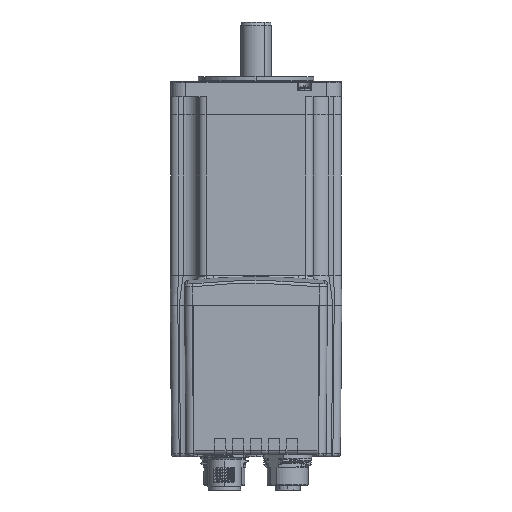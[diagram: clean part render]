
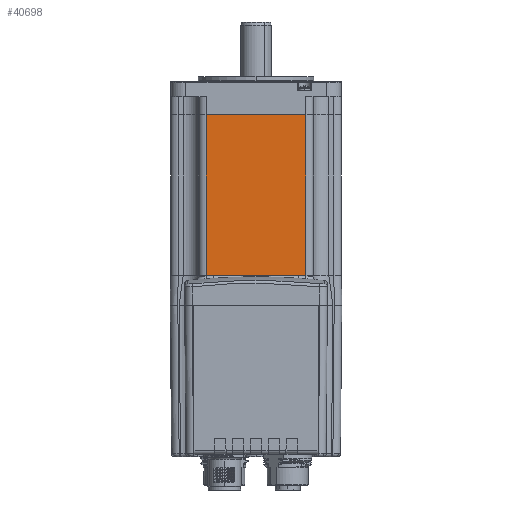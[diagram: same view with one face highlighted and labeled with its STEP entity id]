
A CAD part, left-side view. The second image highlights one B-rep face of the part: STEP entity #40698.
In plain terms, the highlighted planar face has unit normal (-1, 0, 0).
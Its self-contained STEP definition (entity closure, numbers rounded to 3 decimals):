
#144 = VECTOR ( 'NONE', #19174, 1000. ) ;
#480 = DIRECTION ( 'NONE',  ( 1., 0., 0. ) ) ;
#848 = LINE ( 'NONE', #13212, #144 ) ;
#7498 = DIRECTION ( 'NONE',  ( 0., -1., 0. ) ) ;
#7678 = CARTESIAN_POINT ( 'NONE',  ( -0.2, -44.5, 0. ) ) ;
#10474 = EDGE_CURVE ( 'NONE', #75644, #70696, #35447, .T. ) ;
#11553 = ORIENTED_EDGE ( 'NONE', *, *, #57151, .F. ) ;
#13212 = CARTESIAN_POINT ( 'NONE',  ( -0.2, -11.5, 32. ) ) ;
#13247 = VECTOR ( 'NONE', #44961, 1000. ) ;
#14000 = LINE ( 'NONE', #50658, #13247 ) ;
#15417 = VECTOR ( 'NONE', #34447, 1000. ) ;
#15585 = LINE ( 'NONE', #28499, #15417 ) ;
#17189 = ORIENTED_EDGE ( 'NONE', *, *, #67729, .T. ) ;
#19059 = CARTESIAN_POINT ( 'NONE',  ( -0.2, -44.5, 32. ) ) ;
#19174 = DIRECTION ( 'NONE',  ( 0., 0., -1. ) ) ;
#24967 = PLANE ( 'NONE',  #57364 ) ;
#28499 = CARTESIAN_POINT ( 'NONE',  ( -0.2, -44.5, 53. ) ) ;
#29696 = CARTESIAN_POINT ( 'NONE',  ( -0.2, -44.5, 53. ) ) ;
#30941 = DIRECTION ( 'NONE',  ( 0., 0., -1. ) ) ;
#34447 = DIRECTION ( 'NONE',  ( 0., 1., 0. ) ) ;
#35447 = LINE ( 'NONE', #7678, #35521 ) ;
#35521 = VECTOR ( 'NONE', #7498, 1000. ) ;
#37385 = EDGE_CURVE ( 'NONE', #76305, #73601, #15585, .T. ) ;
#40698 = ADVANCED_FACE ( 'NONE', ( #68447 ), #24967, .F. ) ;
#43662 = ORIENTED_EDGE ( 'NONE', *, *, #37385, .T. ) ;
#44961 = DIRECTION ( 'NONE',  ( 0., 0., -1. ) ) ;
#47264 = EDGE_LOOP ( 'NONE', ( #64225, #11553, #43662, #17189 ) ) ;
#50658 = CARTESIAN_POINT ( 'NONE',  ( -0.2, -44.5, 32. ) ) ;
#52895 = CARTESIAN_POINT ( 'NONE',  ( -0.2, -11.5, 0. ) ) ;
#57151 = EDGE_CURVE ( 'NONE', #76305, #70696, #14000, .T. ) ;
#57364 = AXIS2_PLACEMENT_3D ( 'NONE', #19059, #480, #30941 ) ;
#64225 = ORIENTED_EDGE ( 'NONE', *, *, #10474, .T. ) ;
#65946 = CARTESIAN_POINT ( 'NONE',  ( -0.2, -11.5, 53. ) ) ;
#67729 = EDGE_CURVE ( 'NONE', #73601, #75644, #848, .T. ) ;
#68447 = FACE_OUTER_BOUND ( 'NONE', #47264, .T. ) ;
#70696 = VERTEX_POINT ( 'NONE', #74146 ) ;
#73601 = VERTEX_POINT ( 'NONE', #65946 ) ;
#74146 = CARTESIAN_POINT ( 'NONE',  ( -0.2, -44.5, 0. ) ) ;
#75644 = VERTEX_POINT ( 'NONE', #52895 ) ;
#76305 = VERTEX_POINT ( 'NONE', #29696 ) ;
